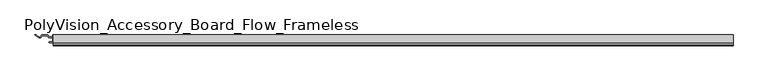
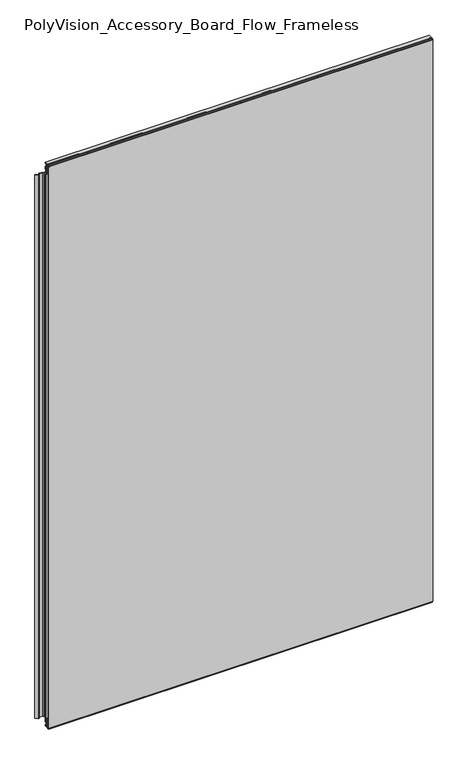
"""IFC4 building model written with IfcOpenShell, lengths in millimetres: furniture geometry, PolyVision_Accessory_Board_Flow_Frameless : 47W x 72H (1185 W x 1830 H)."""

from ifc_helpers import new_model, si_unit, frame, origin, place, context, project, spatial, polyline, outline, extrude, source, transform, mapped, element, save


def polyvision_accessory_board_flow_frameless_59350ed7(model_context):
    return source(origin(), model_context, "Body", "SweptSolid", [
        extrude(outline(polyline([(-2.1773004, 1827.6977202), (-2.1773004, 1826.8340763), (11.9065147, 1826.8340763), (11.9065147, 1824.149308), (7.6861579, 1824.149308), (7.6861579, 1817.1597246), (11.9065147, 1814.0934559), (11.9065147, 1804.1500962), (8.0075268, 1801.3173157), (7.7813476, 1800.4732034), (9.5131033, 1798.0), (7.5873908, 1798.0), (6.1707503, 1800.0231723), (6.1707503, 1801.7730492), (10.4011044, 1804.8465813), (10.4011044, 1813.2889188), (6.1707503, 1816.3624509), (6.1707503, 1823.2252503), (5.2024973, 1823.2252503), (4.2308366, 1824.3425727), (3.1736041, 1823.2853402), (2.1319224, 1824.3270218), (1.2210895, 1823.2415334), (0.4403969, 1824.2407744), (-0.5343781, 1823.2659994), (-1.3255269, 1823.2659994), (-1.3255269, 1824.7318758), (-2.1773004, 1824.7318758), (-2.1773004, 1823.8660166), (-5.4323759, 1824.6775981), (-5.4323759, 1826.8964971), (-2.1773004, 1827.6977202)])), frame((-587.0671964, 0.0, 0.0), z_axis=(1.0, 0.0, 0.0), x_axis=(0.0, 1.0, 0.0)), (0.0, 0.0, 1.0), 1174.1343929),
        extrude(outline(polyline([(-587.7413843, 0.0476856), (-587.7413843, 6.7743691), (-595.1878129, 6.7743691), (-597.7413843, 10.3493691), (-606.1415584, 10.3493691), (-608.7389479, 6.7743691), (-611.9925808, 6.7743691), (-618.9777191, 11.8493691), (-616.3960682, 11.8493691), (-610.1907804, 7.3409636), (-606.8911765, 11.8824787), (-596.8911765, 11.8824787), (-594.3371154, 8.3067932), (-587.741586, 8.3067932), (-587.741586, 11.8421507), (-586.3411827, 11.8421507), (-586.3411827, 8.3067932), (-579.7456533, 8.3067932), (-577.1915922, 11.8824787), (-567.1915922, 11.8824787), (-563.8919883, 7.3409636), (-557.6867004, 11.8493691), (-555.1050496, 11.8493691), (-562.0901879, 6.7743691), (-565.3438207, 6.7743691), (-567.9412103, 10.3493691), (-576.3413843, 10.3493691), (-578.8949558, 6.7743691), (-586.3413843, 6.7743691), (-586.3413843, 0.0476856), (-579.6671757, 0.0476856), (-578.6671757, -0.9523144), (-579.6671757, -1.9523144), (-594.4155929, -1.9523144), (-595.4155929, -0.9523144), (-594.4155929, 0.0476856), (-587.7413843, 0.0476856)])), frame((0.0, 0.0, 39.0), z_axis=(0.0, 0.0, 1.0), x_axis=(1.0, 0.0, 0.0)), (0.0, 0.0, 1.0), 1759.0),
        extrude(outline(polyline([(-2.1773004, 3.0522798), (-5.4323759, 3.8535029), (-5.4323759, 6.0724019), (-2.1773004, 6.8839834), (-2.1773004, 6.0181242), (-1.3255269, 6.0181242), (-1.3255269, 7.4840006), (-0.5343781, 7.4840006), (0.4403969, 6.5092256), (1.2210895, 7.5084666), (2.1319224, 6.4229782), (3.1736041, 7.4646598), (4.2308366, 6.4074273), (5.2024973, 7.5247497), (6.1707503, 7.5247497), (6.1707503, 14.3875491), (10.4011044, 17.4610812), (10.4011044, 25.9034187), (6.1707503, 28.9769508), (6.1707503, 30.7268277), (11.9065147, 38.9183482), (11.9065147, 36.1681457), (7.7813476, 30.2767966), (8.0075268, 29.4326843), (11.9065147, 26.5999038), (11.9065147, 16.6565441), (7.6861579, 13.5902754), (7.6861579, 6.600692), (11.9065147, 6.600692), (11.9065147, 3.9159237), (-2.1773004, 3.9159237), (-2.1773004, 3.0522798)])), frame((-587.0671964, 0.0, 0.0), z_axis=(1.0, 0.0, 0.0), x_axis=(0.0, 1.0, 0.0)), (0.0, 0.0, 1.0), 1174.1343929),
        extrude(outline(polyline([(587.0671964, -6.2220176), (587.0671964, -7.0048301), (-587.0671964, -7.0048301), (-587.0671964, -6.2220176), (587.0671964, -6.2220176)])), frame((0.0, 0.0, 7.0), z_axis=(0.0, 0.0, 1.0), x_axis=(1.0, 0.0, 0.0)), (0.0, 0.0, 1.0), 1817.0),
        extrude(outline(polyline([(585.0671964, 5.9853098), (585.0671964, 5.2024973), (-585.0671964, 5.2024973), (-585.0671964, 5.9853098), (585.0671964, 5.9853098)])), frame((0.0, 0.0, 7.0), z_axis=(0.0, 0.0, 1.0), x_axis=(1.0, 0.0, 0.0)), (0.0, 0.0, 1.0), 1817.0),
        extrude(outline(polyline([(585.0671964, 5.2024973), (585.0671964, 0.2355242), (575.0671964, 0.2355242), (575.0671964, -2.1351563), (587.0671964, -2.1351563), (587.0671964, -5.7140707), (-587.0671964, -5.7140707), (-587.0671964, -2.1351563), (-575.0671964, -2.1351563), (-575.0671964, 0.2355242), (-585.0671964, 0.2355242), (-585.0671964, 5.2024973), (585.0671964, 5.2024973)])), frame((0.0, 0.0, 7.0), z_axis=(0.0, 0.0, 1.0), x_axis=(1.0, 0.0, 0.0)), (0.0, 0.0, 1.0), 1817.0),
    ])


if __name__ == "__main__":
    model = new_model("IFC4")
    model_context = context("Model", 3, world=origin())
    ifc_project = project(units=[si_unit("LENGTHUNIT", "METRE", prefix="MILLI")], contexts=[model_context])
    site = spatial("IfcSite", under=ifc_project)
    building = spatial("IfcBuilding", under=site)
    placement = place(None, origin())
    polyvision_accessory_board_flow_frameless_shape = polyvision_accessory_board_flow_frameless_59350ed7(model_context)
    element("IfcFurniture", 1, ObjectType="PolyVision_Accessory_Board_Flow_Frameless : 47W x 72H (1185 W x 1830 H)", at=placement, inside=building, context=model_context, shape_type="MappedRepresentation", body=[
        mapped(polyvision_accessory_board_flow_frameless_shape, transform((0.0, 0.0, 0.0), x_axis=(1.0, 0.0, 0.0), y_axis=(0.0, 1.0, 0.0), z_axis=(0.0, 0.0, 1.0))),
    ])
    save(model, "model.ifc")
